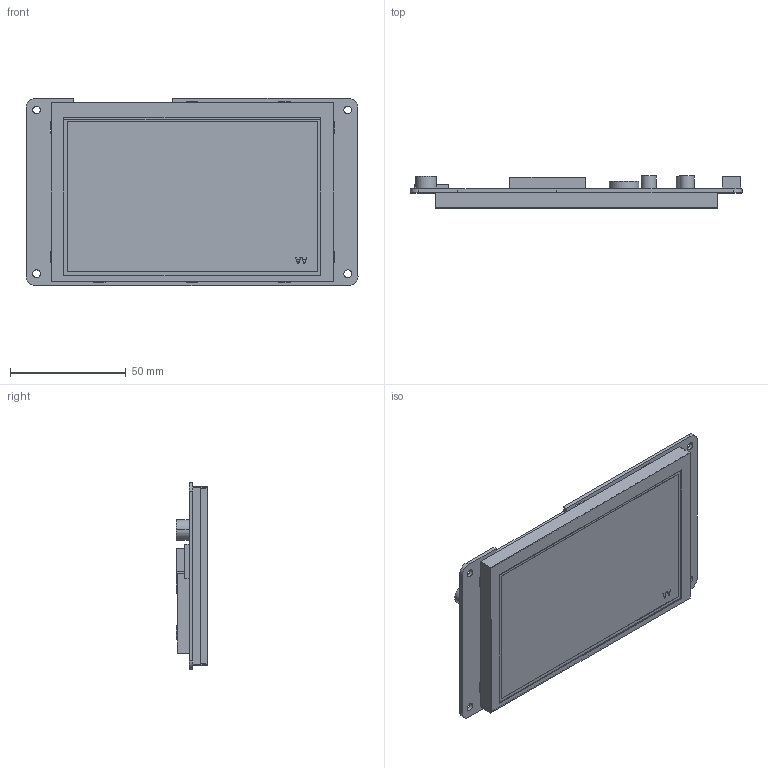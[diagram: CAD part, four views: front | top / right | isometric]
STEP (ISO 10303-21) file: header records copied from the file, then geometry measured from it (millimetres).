
FILE_DESCRIPTION((''),'2;1');
FILE_NAME('DMG80480T050-02WTR_ASM','2021-12-03T',('Administrator'),(''),'PRO/ENGINEER BY PARAMETRIC TECHNOLOGY CORPORATION, 2014320','PRO/ENGINEER BY PARAMETRIC TECHNOLOGY CORPORATION, 2014320','');
FILE_SCHEMA(('CONFIG_CONTROL_DESIGN','SHAPE_APPEARANCE_LAYERS_GROUPS'));
Length unit declared in the file: millimetre
Products named in the file (4): TK050002; B00362; PCB; DMG80480T050-02WTR_ASM
Assembly tree (3 placements, depth 2):
  DMG80480T050-02WTR_ASM
    TK050002
    B00362
    PCB
Bounding box: 143.38 x 13.8 x 80.77 mm (x, y, z)
Volume: 54217.8 mm3; surface area: 53758.7 mm2
Topology: 3 solids, 3 shells, 151 faces, 390 edges, 260 vertices
Faces by surface type: plane 125, cylinder 26
Entity records: 4804 total; most frequent: CARTESIAN_POINT 808, ORIENTED_EDGE 780, DIRECTION 758, EDGE_CURVE 390, VECTOR 338, LINE 338, VERTEX_POINT 260, AXIS2_PLACEMENT_3D 210
